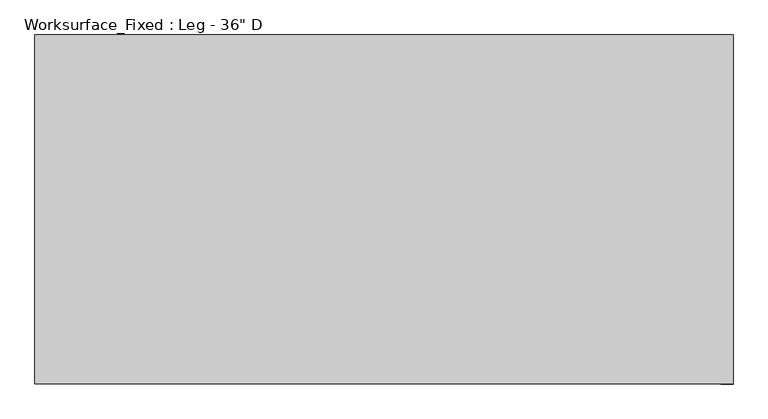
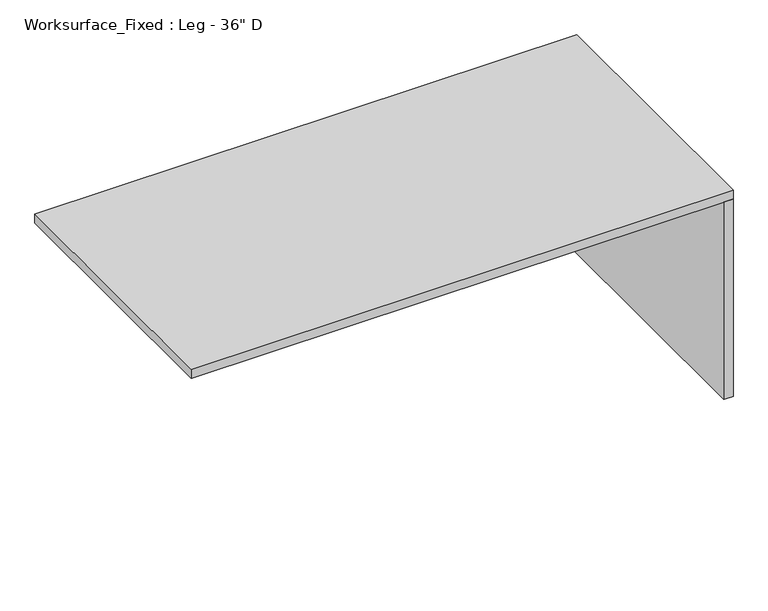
"""IFC4 building model written with IfcOpenShell, lengths in millimetres: furniture geometry."""

from ifc_helpers import new_model, si_unit, frame, origin, origin_with_axes, place, context, project, spatial, polyline, outline, extrude, source, transform, mapped, element, save


def furniture_1631e02c(model_context):
    return source(origin(), model_context, "Body", "SweptSolid", [
        extrude(outline(polyline([(654.85, 1804.6851165), (654.85, 1808.1625), (704.85, 1808.1625), (704.85, 198.5886722), (677.2318516, 198.5886722), (677.2318516, 468.4636722), (670.8818516, 468.4636722), (664.8286016, 474.5169222), (664.8286016, 1794.7065149), (654.85, 1804.6851165)])), frame((0.0, 133.35, 0.0), z_axis=(0.0, 1.0, 0.0), x_axis=(0.0, 0.0, 1.0)), (0.0, 0.0, 1.0), 647.7),
        extrude(outline(polyline([(1828.8, 914.4), (1828.8, 0.0), (1797.05, 0.0), (1797.05, 914.4), (1828.8, 914.4)])), origin_with_axes(), (0.0, 0.0, 1.0), 704.85),
        extrude(outline(polyline([(1828.8, 914.4), (1828.8, 0.0), (0.0, 0.0), (0.0, 914.4), (1828.8, 914.4)])), frame((0.0, 0.0, 704.85), z_axis=(0.0, 0.0, 1.0), x_axis=(1.0, 0.0, 0.0)), (0.0, 0.0, 1.0), 31.75),
    ])


if __name__ == "__main__":
    model = new_model("IFC4")
    model_context = context("Model", 3, world=origin())
    ifc_project = project(units=[si_unit("LENGTHUNIT", "METRE", prefix="MILLI")], contexts=[model_context])
    site = spatial("IfcSite", under=ifc_project)
    building = spatial("IfcBuilding", under=site)
    placement = place(None, origin())
    furniture_shape = furniture_1631e02c(model_context)
    element("IfcFurniture", 1, ObjectType="Worksurface_Fixed : Leg - 36\" D", at=placement, inside=building, context=model_context, shape_type="MappedRepresentation", body=[
        mapped(furniture_shape, transform((0.0, 0.0, 0.0), x_axis=(1.0, 0.0, 0.0), y_axis=(0.0, 1.0, 0.0), z_axis=(0.0, 0.0, 1.0))),
    ])
    save(model, "model.ifc")
